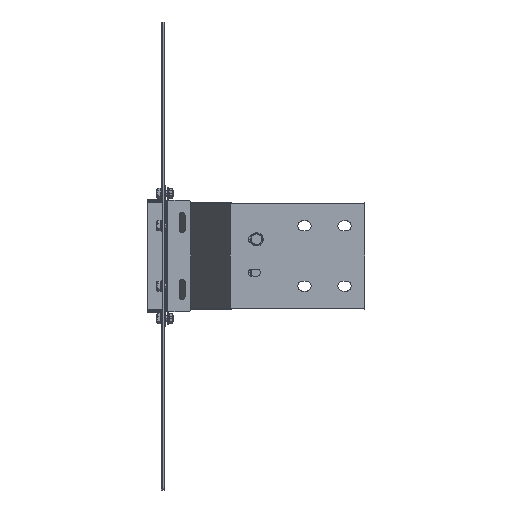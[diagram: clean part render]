
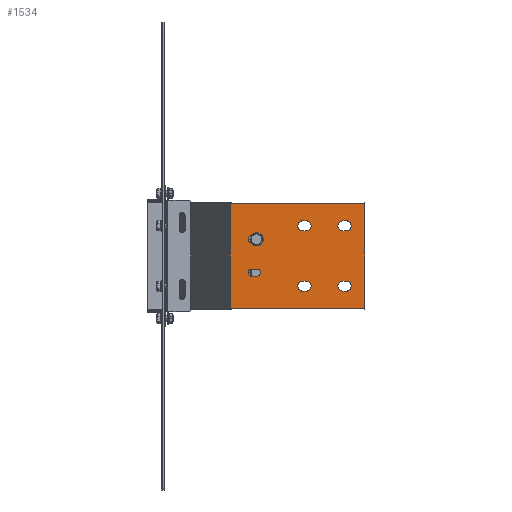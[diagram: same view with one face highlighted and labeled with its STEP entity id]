
A CAD part, front view. The second image highlights one B-rep face of the part: STEP entity #1534.
In plain terms, the highlighted planar face has unit normal (0, -1, 0).
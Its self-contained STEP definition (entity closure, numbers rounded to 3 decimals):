
#1290=AXIS2_PLACEMENT_3D('Circle Axis2P3D',#1288,#1289,$) ;
#1310=AXIS2_PLACEMENT_3D('Plane Axis2P3D',#1307,#1308,#1309) ;
#1348=AXIS2_PLACEMENT_3D('Circle Axis2P3D',#1346,#1347,$) ;
#1366=AXIS2_PLACEMENT_3D('Circle Axis2P3D',#1364,#1365,$) ;
#1382=AXIS2_PLACEMENT_3D('Circle Axis2P3D',#1380,#1381,$) ;
#1400=AXIS2_PLACEMENT_3D('Circle Axis2P3D',#1398,#1399,$) ;
#1416=AXIS2_PLACEMENT_3D('Circle Axis2P3D',#1414,#1415,$) ;
#1443=AXIS2_PLACEMENT_3D('Circle Axis2P3D',#1441,#1442,$) ;
#1457=AXIS2_PLACEMENT_3D('Circle Axis2P3D',#1455,#1456,$) ;
#1468=AXIS2_PLACEMENT_3D('Circle Axis2P3D',#1466,#1467,$) ;
#1484=AXIS2_PLACEMENT_3D('Circle Axis2P3D',#1482,#1483,$) ;
#1502=AXIS2_PLACEMENT_3D('Circle Axis2P3D',#1500,#1501,$) ;
#1518=AXIS2_PLACEMENT_3D('Circle Axis2P3D',#1516,#1517,$) ;
#1254=CARTESIAN_POINT('Vertex',(212.5,-216.625,52.5)) ;
#1257=CARTESIAN_POINT('Line Origine',(210.,-216.625,52.5)) ;
#1261=CARTESIAN_POINT('Vertex',(207.5,-216.625,52.5)) ;
#1288=CARTESIAN_POINT('Axis2P3D Location',(207.5,-216.625,45.)) ;
#1292=CARTESIAN_POINT('Vertex',(207.5,-216.625,37.5)) ;
#1307=CARTESIAN_POINT('Axis2P3D Location',(300.,-216.625,-78.375)) ;
#1312=CARTESIAN_POINT('Line Origine',(199.465,-216.625,-78.375)) ;
#1316=CARTESIAN_POINT('Vertex',(300.,-216.625,-78.375)) ;
#1318=CARTESIAN_POINT('Vertex',(98.931,-216.625,-78.375)) ;
#1321=CARTESIAN_POINT('Line Origine',(300.,-216.625,0.)) ;
#1325=CARTESIAN_POINT('Vertex',(300.,-216.625,78.375)) ;
#1328=CARTESIAN_POINT('Line Origine',(199.465,-216.625,78.375)) ;
#1332=CARTESIAN_POINT('Vertex',(98.931,-216.625,78.375)) ;
#1335=CARTESIAN_POINT('Line Origine',(98.931,-216.625,0.)) ;
#1346=CARTESIAN_POINT('Axis2P3D Location',(212.5,-216.625,45.)) ;
#1350=CARTESIAN_POINT('Vertex',(212.5,-216.625,37.5)) ;
#1353=CARTESIAN_POINT('Line Origine',(210.,-216.625,37.5)) ;
#1364=CARTESIAN_POINT('Axis2P3D Location',(272.5,-216.625,45.)) ;
#1368=CARTESIAN_POINT('Vertex',(272.5,-216.625,37.5)) ;
#1370=CARTESIAN_POINT('Vertex',(272.5,-216.625,52.5)) ;
#1373=CARTESIAN_POINT('Line Origine',(270.,-216.625,37.5)) ;
#1377=CARTESIAN_POINT('Vertex',(267.5,-216.625,37.5)) ;
#1380=CARTESIAN_POINT('Axis2P3D Location',(267.5,-216.625,45.)) ;
#1384=CARTESIAN_POINT('Vertex',(267.5,-216.625,52.5)) ;
#1387=CARTESIAN_POINT('Line Origine',(270.,-216.625,52.5)) ;
#1398=CARTESIAN_POINT('Axis2P3D Location',(207.5,-216.625,-45.)) ;
#1402=CARTESIAN_POINT('Vertex',(207.5,-216.625,-37.5)) ;
#1404=CARTESIAN_POINT('Vertex',(207.5,-216.625,-52.5)) ;
#1407=CARTESIAN_POINT('Line Origine',(210.,-216.625,-37.5)) ;
#1411=CARTESIAN_POINT('Vertex',(212.5,-216.625,-37.5)) ;
#1414=CARTESIAN_POINT('Axis2P3D Location',(212.5,-216.625,-45.)) ;
#1418=CARTESIAN_POINT('Vertex',(212.5,-216.625,-52.5)) ;
#1421=CARTESIAN_POINT('Line Origine',(210.,-216.625,-52.5)) ;
#1432=CARTESIAN_POINT('Line Origine',(270.,-216.625,-37.5)) ;
#1436=CARTESIAN_POINT('Vertex',(272.5,-216.625,-37.5)) ;
#1438=CARTESIAN_POINT('Vertex',(267.5,-216.625,-37.5)) ;
#1441=CARTESIAN_POINT('Axis2P3D Location',(272.5,-216.625,-45.)) ;
#1445=CARTESIAN_POINT('Vertex',(272.5,-216.625,-52.5)) ;
#1448=CARTESIAN_POINT('Line Origine',(270.,-216.625,-52.5)) ;
#1452=CARTESIAN_POINT('Vertex',(267.5,-216.625,-52.5)) ;
#1455=CARTESIAN_POINT('Axis2P3D Location',(267.5,-216.625,-45.)) ;
#1466=CARTESIAN_POINT('Axis2P3D Location',(138.5,-216.625,25.)) ;
#1470=CARTESIAN_POINT('Vertex',(138.5,-216.625,19.5)) ;
#1472=CARTESIAN_POINT('Vertex',(138.5,-216.625,30.5)) ;
#1475=CARTESIAN_POINT('Line Origine',(135.,-216.625,19.5)) ;
#1479=CARTESIAN_POINT('Vertex',(131.5,-216.625,19.5)) ;
#1482=CARTESIAN_POINT('Axis2P3D Location',(131.5,-216.625,25.)) ;
#1486=CARTESIAN_POINT('Vertex',(131.5,-216.625,30.5)) ;
#1489=CARTESIAN_POINT('Line Origine',(135.,-216.625,30.5)) ;
#1500=CARTESIAN_POINT('Axis2P3D Location',(131.5,-216.625,-25.)) ;
#1504=CARTESIAN_POINT('Vertex',(131.5,-216.625,-19.5)) ;
#1506=CARTESIAN_POINT('Vertex',(131.5,-216.625,-30.5)) ;
#1509=CARTESIAN_POINT('Line Origine',(135.,-216.625,-19.5)) ;
#1513=CARTESIAN_POINT('Vertex',(138.5,-216.625,-19.5)) ;
#1516=CARTESIAN_POINT('Axis2P3D Location',(138.5,-216.625,-25.)) ;
#1520=CARTESIAN_POINT('Vertex',(138.5,-216.625,-30.5)) ;
#1523=CARTESIAN_POINT('Line Origine',(135.,-216.625,-30.5)) ;
#1258=DIRECTION('Vector Direction',(1.,0.,0.)) ;
#1289=DIRECTION('Axis2P3D Direction',(0.,-1.,0.)) ;
#1308=DIRECTION('Axis2P3D Direction',(0.,-1.,0.)) ;
#1309=DIRECTION('Axis2P3D XDirection',(0.,0.,1.)) ;
#1313=DIRECTION('Vector Direction',(-1.,0.,0.)) ;
#1322=DIRECTION('Vector Direction',(0.,0.,1.)) ;
#1329=DIRECTION('Vector Direction',(-1.,0.,0.)) ;
#1336=DIRECTION('Vector Direction',(0.,0.,1.)) ;
#1347=DIRECTION('Axis2P3D Direction',(0.,-1.,0.)) ;
#1354=DIRECTION('Vector Direction',(-1.,0.,0.)) ;
#1365=DIRECTION('Axis2P3D Direction',(0.,-1.,0.)) ;
#1374=DIRECTION('Vector Direction',(1.,0.,0.)) ;
#1381=DIRECTION('Axis2P3D Direction',(0.,-1.,0.)) ;
#1388=DIRECTION('Vector Direction',(-1.,0.,0.)) ;
#1399=DIRECTION('Axis2P3D Direction',(0.,-1.,0.)) ;
#1408=DIRECTION('Vector Direction',(-1.,0.,0.)) ;
#1415=DIRECTION('Axis2P3D Direction',(0.,-1.,0.)) ;
#1422=DIRECTION('Vector Direction',(1.,0.,0.)) ;
#1433=DIRECTION('Vector Direction',(1.,0.,0.)) ;
#1442=DIRECTION('Axis2P3D Direction',(0.,-1.,0.)) ;
#1449=DIRECTION('Vector Direction',(-1.,0.,0.)) ;
#1456=DIRECTION('Axis2P3D Direction',(0.,-1.,0.)) ;
#1467=DIRECTION('Axis2P3D Direction',(0.,-1.,0.)) ;
#1476=DIRECTION('Vector Direction',(-1.,0.,0.)) ;
#1483=DIRECTION('Axis2P3D Direction',(0.,-1.,0.)) ;
#1490=DIRECTION('Vector Direction',(1.,0.,0.)) ;
#1501=DIRECTION('Axis2P3D Direction',(0.,-1.,0.)) ;
#1510=DIRECTION('Vector Direction',(-1.,0.,0.)) ;
#1517=DIRECTION('Axis2P3D Direction',(0.,-1.,0.)) ;
#1524=DIRECTION('Vector Direction',(1.,0.,0.)) ;
#1259=VECTOR('Line Direction',#1258,1.) ;
#1314=VECTOR('Line Direction',#1313,1.) ;
#1323=VECTOR('Line Direction',#1322,1.) ;
#1330=VECTOR('Line Direction',#1329,1.) ;
#1337=VECTOR('Line Direction',#1336,1.) ;
#1355=VECTOR('Line Direction',#1354,1.) ;
#1375=VECTOR('Line Direction',#1374,1.) ;
#1389=VECTOR('Line Direction',#1388,1.) ;
#1409=VECTOR('Line Direction',#1408,1.) ;
#1423=VECTOR('Line Direction',#1422,1.) ;
#1434=VECTOR('Line Direction',#1433,1.) ;
#1450=VECTOR('Line Direction',#1449,1.) ;
#1477=VECTOR('Line Direction',#1476,1.) ;
#1491=VECTOR('Line Direction',#1490,1.) ;
#1511=VECTOR('Line Direction',#1510,1.) ;
#1525=VECTOR('Line Direction',#1524,1.) ;
#1341=ORIENTED_EDGE('',*,*,#1320,.F.) ;
#1342=ORIENTED_EDGE('',*,*,#1327,.F.) ;
#1343=ORIENTED_EDGE('',*,*,#1334,.T.) ;
#1344=ORIENTED_EDGE('',*,*,#1339,.F.) ;
#1359=ORIENTED_EDGE('',*,*,#1352,.F.) ;
#1360=ORIENTED_EDGE('',*,*,#1357,.F.) ;
#1361=ORIENTED_EDGE('',*,*,#1294,.F.) ;
#1362=ORIENTED_EDGE('',*,*,#1263,.F.) ;
#1393=ORIENTED_EDGE('',*,*,#1372,.F.) ;
#1394=ORIENTED_EDGE('',*,*,#1379,.F.) ;
#1395=ORIENTED_EDGE('',*,*,#1386,.F.) ;
#1396=ORIENTED_EDGE('',*,*,#1391,.F.) ;
#1427=ORIENTED_EDGE('',*,*,#1406,.F.) ;
#1428=ORIENTED_EDGE('',*,*,#1413,.F.) ;
#1429=ORIENTED_EDGE('',*,*,#1420,.F.) ;
#1430=ORIENTED_EDGE('',*,*,#1425,.F.) ;
#1461=ORIENTED_EDGE('',*,*,#1440,.F.) ;
#1462=ORIENTED_EDGE('',*,*,#1447,.F.) ;
#1463=ORIENTED_EDGE('',*,*,#1454,.F.) ;
#1464=ORIENTED_EDGE('',*,*,#1459,.F.) ;
#1495=ORIENTED_EDGE('',*,*,#1474,.F.) ;
#1496=ORIENTED_EDGE('',*,*,#1481,.F.) ;
#1497=ORIENTED_EDGE('',*,*,#1488,.F.) ;
#1498=ORIENTED_EDGE('',*,*,#1493,.F.) ;
#1529=ORIENTED_EDGE('',*,*,#1508,.F.) ;
#1530=ORIENTED_EDGE('',*,*,#1515,.F.) ;
#1531=ORIENTED_EDGE('',*,*,#1522,.F.) ;
#1532=ORIENTED_EDGE('',*,*,#1527,.F.) ;
#1363=FACE_BOUND('',#1358,.T.) ;
#1397=FACE_BOUND('',#1392,.T.) ;
#1431=FACE_BOUND('',#1426,.T.) ;
#1465=FACE_BOUND('',#1460,.T.) ;
#1499=FACE_BOUND('',#1494,.T.) ;
#1533=FACE_BOUND('',#1528,.T.) ;
#1534=ADVANCED_FACE('N',(#1345,#1363,#1397,#1431,#1465,#1499,#1533),#1311,.T.) ;
#1291=CIRCLE('generated circle',#1290,7.5) ;
#1349=CIRCLE('generated circle',#1348,7.5) ;
#1367=CIRCLE('generated circle',#1366,7.5) ;
#1383=CIRCLE('generated circle',#1382,7.5) ;
#1401=CIRCLE('generated circle',#1400,7.5) ;
#1417=CIRCLE('generated circle',#1416,7.5) ;
#1444=CIRCLE('generated circle',#1443,7.5) ;
#1458=CIRCLE('generated circle',#1457,7.5) ;
#1469=CIRCLE('generated circle',#1468,5.5) ;
#1485=CIRCLE('generated circle',#1484,5.5) ;
#1503=CIRCLE('generated circle',#1502,5.5) ;
#1519=CIRCLE('generated circle',#1518,5.5) ;
#1263=EDGE_CURVE('',#1255,#1262,#1260,.F.) ;
#1294=EDGE_CURVE('',#1262,#1293,#1291,.T.) ;
#1320=EDGE_CURVE('',#1317,#1319,#1315,.T.) ;
#1327=EDGE_CURVE('',#1326,#1317,#1324,.F.) ;
#1334=EDGE_CURVE('',#1326,#1333,#1331,.T.) ;
#1339=EDGE_CURVE('',#1319,#1333,#1338,.T.) ;
#1352=EDGE_CURVE('',#1351,#1255,#1349,.T.) ;
#1357=EDGE_CURVE('',#1293,#1351,#1356,.F.) ;
#1372=EDGE_CURVE('',#1369,#1371,#1367,.T.) ;
#1379=EDGE_CURVE('',#1378,#1369,#1376,.T.) ;
#1386=EDGE_CURVE('',#1385,#1378,#1383,.T.) ;
#1391=EDGE_CURVE('',#1371,#1385,#1390,.T.) ;
#1406=EDGE_CURVE('',#1403,#1405,#1401,.T.) ;
#1413=EDGE_CURVE('',#1412,#1403,#1410,.T.) ;
#1420=EDGE_CURVE('',#1419,#1412,#1417,.T.) ;
#1425=EDGE_CURVE('',#1405,#1419,#1424,.T.) ;
#1440=EDGE_CURVE('',#1437,#1439,#1435,.F.) ;
#1447=EDGE_CURVE('',#1446,#1437,#1444,.T.) ;
#1454=EDGE_CURVE('',#1453,#1446,#1451,.F.) ;
#1459=EDGE_CURVE('',#1439,#1453,#1458,.T.) ;
#1474=EDGE_CURVE('',#1471,#1473,#1469,.T.) ;
#1481=EDGE_CURVE('',#1480,#1471,#1478,.F.) ;
#1488=EDGE_CURVE('',#1487,#1480,#1485,.T.) ;
#1493=EDGE_CURVE('',#1473,#1487,#1492,.F.) ;
#1508=EDGE_CURVE('',#1505,#1507,#1503,.T.) ;
#1515=EDGE_CURVE('',#1514,#1505,#1512,.T.) ;
#1522=EDGE_CURVE('',#1521,#1514,#1519,.T.) ;
#1527=EDGE_CURVE('',#1507,#1521,#1526,.T.) ;
#1340=EDGE_LOOP('',(#1341,#1342,#1343,#1344)) ;
#1358=EDGE_LOOP('',(#1359,#1360,#1361,#1362)) ;
#1392=EDGE_LOOP('',(#1393,#1394,#1395,#1396)) ;
#1426=EDGE_LOOP('',(#1427,#1428,#1429,#1430)) ;
#1460=EDGE_LOOP('',(#1461,#1462,#1463,#1464)) ;
#1494=EDGE_LOOP('',(#1495,#1496,#1497,#1498)) ;
#1528=EDGE_LOOP('',(#1529,#1530,#1531,#1532)) ;
#1345=FACE_OUTER_BOUND('',#1340,.T.) ;
#1260=LINE('Line',#1257,#1259) ;
#1315=LINE('Line',#1312,#1314) ;
#1324=LINE('Line',#1321,#1323) ;
#1331=LINE('Line',#1328,#1330) ;
#1338=LINE('Line',#1335,#1337) ;
#1356=LINE('Line',#1353,#1355) ;
#1376=LINE('Line',#1373,#1375) ;
#1390=LINE('Line',#1387,#1389) ;
#1410=LINE('Line',#1407,#1409) ;
#1424=LINE('Line',#1421,#1423) ;
#1435=LINE('Line',#1432,#1434) ;
#1451=LINE('Line',#1448,#1450) ;
#1478=LINE('Line',#1475,#1477) ;
#1492=LINE('Line',#1489,#1491) ;
#1512=LINE('Line',#1509,#1511) ;
#1526=LINE('Line',#1523,#1525) ;
#1311=PLANE('',#1310) ;
#1255=VERTEX_POINT('',#1254) ;
#1262=VERTEX_POINT('',#1261) ;
#1293=VERTEX_POINT('',#1292) ;
#1317=VERTEX_POINT('',#1316) ;
#1319=VERTEX_POINT('',#1318) ;
#1326=VERTEX_POINT('',#1325) ;
#1333=VERTEX_POINT('',#1332) ;
#1351=VERTEX_POINT('',#1350) ;
#1369=VERTEX_POINT('',#1368) ;
#1371=VERTEX_POINT('',#1370) ;
#1378=VERTEX_POINT('',#1377) ;
#1385=VERTEX_POINT('',#1384) ;
#1403=VERTEX_POINT('',#1402) ;
#1405=VERTEX_POINT('',#1404) ;
#1412=VERTEX_POINT('',#1411) ;
#1419=VERTEX_POINT('',#1418) ;
#1437=VERTEX_POINT('',#1436) ;
#1439=VERTEX_POINT('',#1438) ;
#1446=VERTEX_POINT('',#1445) ;
#1453=VERTEX_POINT('',#1452) ;
#1471=VERTEX_POINT('',#1470) ;
#1473=VERTEX_POINT('',#1472) ;
#1480=VERTEX_POINT('',#1479) ;
#1487=VERTEX_POINT('',#1486) ;
#1505=VERTEX_POINT('',#1504) ;
#1507=VERTEX_POINT('',#1506) ;
#1514=VERTEX_POINT('',#1513) ;
#1521=VERTEX_POINT('',#1520) ;
